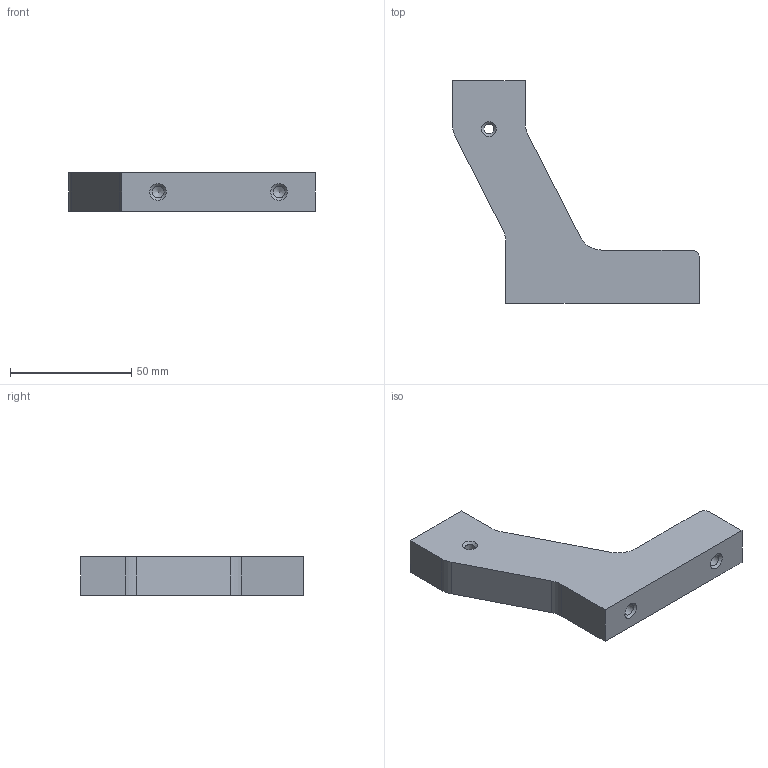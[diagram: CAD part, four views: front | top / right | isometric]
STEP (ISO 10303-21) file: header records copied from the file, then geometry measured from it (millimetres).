
FILE_DESCRIPTION(('STEP AP203'), '1');
FILE_NAME('ﾒﾏﾏﾔ1801.01.03.00.005 - ﾐ裔', '', ('UNSPECIFIED'), ('UNSPECIFIED'), 'C3D Converter', 'C3D Toolkit', '');
FILE_SCHEMA(('CONFIG_CONTROL_DESIGN'));
Length unit declared in the file: millimetre
Products named in the file (1): ТППФ1801.01.03.00.005
Bounding box: 102 x 92 x 16 mm (x, y, z)
Volume: 61348.4 mm3; surface area: 14086 mm2
Topology: 1 solids, 1 shells, 28 faces, 70 edges, 44 vertices
Faces by surface type: plane 11, cylinder 9, cone 8
Full cylindrical faces by diameter (mm): 4.134 x1, 4.917 x3
Entity records: 1014 total; most frequent: DIRECTION 136, CARTESIAN_POINT 125, ORIENTED_EDGE 110, EDGE_CURVE 55, AXIS2_PLACEMENT_3D 52, EDGE_LOOP 42, VERTEX_POINT 41, LINE 32
